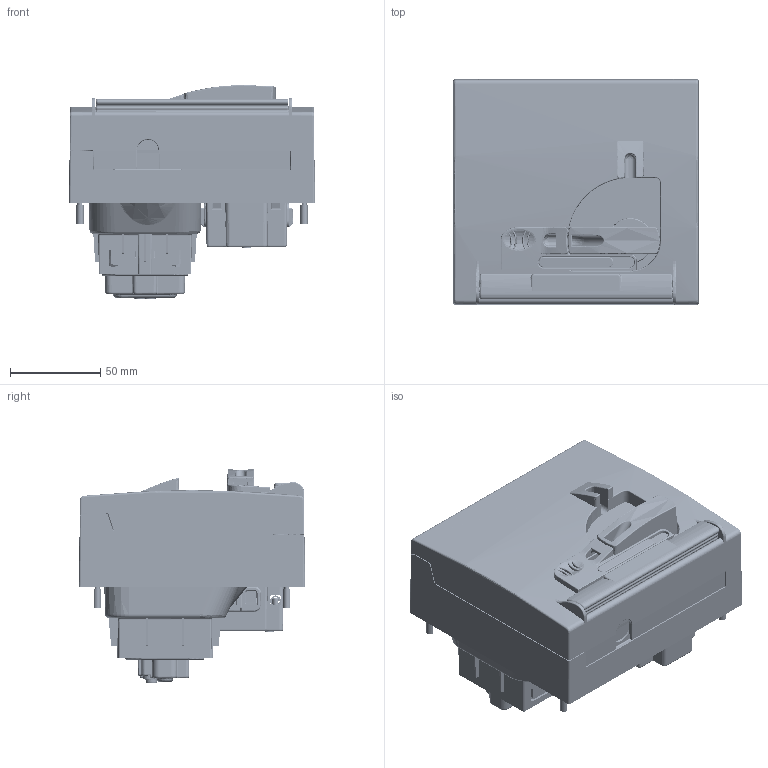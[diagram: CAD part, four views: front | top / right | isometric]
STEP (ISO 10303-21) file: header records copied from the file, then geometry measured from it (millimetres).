
FILE_DESCRIPTION(/* description */ (''),/* implementation_level */ '2;1');
FILE_NAME(/* name */ '4008483.stp',/* time_stamp */ '2020-12-23T08:07:14+01:00',/* author */ (''),/* organization */ (''),/* preprocessor_version */ 'ST-DEVELOPER v16.7',/* originating_system */ 'SIEMENS PLM Software NX 1946',/* authorisation */ '');
FILE_SCHEMA (('AUTOMOTIVE_DESIGN { 1 0 10303 214 3 1 1 1 }'));
Products named in the file (1): BSOM5CCC8272s7u9
Bounding box: 136 x 125 x 118.54 mm (x, y, z)
Volume: 301786.2 mm3; surface area: 331493.5 mm2
Topology: 47 solids, 47 shells, 8518 faces, 22816 edges, 14244 vertices
Faces by surface type: plane 4040, cylinder 2298, bspline 1145, cone 524, torus 295, sphere 193, revolution 13, extrusion 10
Full cylindrical faces by diameter (mm): 0.2 x1, 0.4 x1, 1.8 x2, 2.5 x6, 2.7 x1, 2.8 x7, 2.9 x3, 3 x8, 3.1 x8, 3.2 x8, 3.4 x1, 3.5 x12, 3.7 x3, 4 x6, 4.4 x4, 4.664 x1, 5 x6, 5.003 x1, 5.6 x1, 5.7 x2, 5.8 x2, 6.2 x2, 7 x1, 7.2 x4, 7.3 x3, 7.6 x4, 8 x2, 8.7 x4, 19.2 x1
Entity records: 314888 total; most frequent: CARTESIAN_POINT 111386, ORIENTED_EDGE 44314, DIRECTION 39505, EDGE_CURVE 22157, VERTEX_POINT 14100, AXIS2_PLACEMENT_3D 13495, VECTOR 12502, LINE 12492
